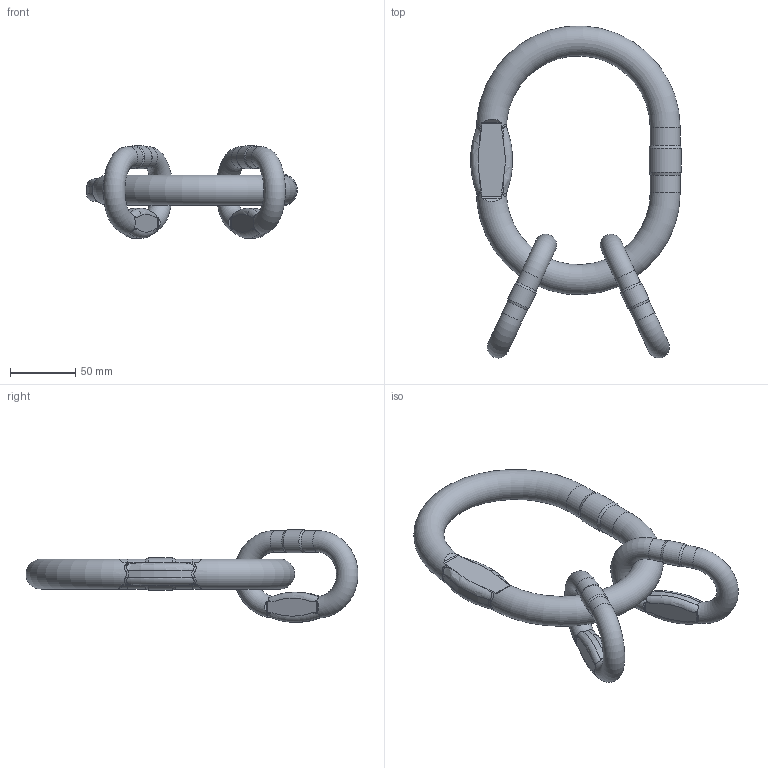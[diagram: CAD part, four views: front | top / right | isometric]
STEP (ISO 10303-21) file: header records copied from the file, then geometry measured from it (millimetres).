
FILE_DESCRIPTION(/* description */ (''),/* implementation_level */ '2;1');
FILE_NAME(/* name */ 'pewag_VMW_7-8',/* time_stamp */ '2010-02-23T13:35:37+01:00',/* author */ (''),/* organization */ (''),/* preprocessor_version */ 'ST-DEVELOPER v9',/* originating_system */ 'UGS - NX 4.0',/* authorisation */ '');
FILE_SCHEMA (('AUTOMOTIVE_DESIGN { 1 0 10303 214 1 1 1 1 }'));
Length unit declared in the file: millimetre
Products named in the file (1): ritEE04a5uc
Bounding box: 161.4 x 254.39 x 70.85 mm (x, y, z)
Volume: 322661.2 mm3; surface area: 63001.6 mm2
Topology: 3 solids, 3 shells, 127 faces, 351 edges, 220 vertices
Faces by surface type: cylinder 51, bspline 30, torus 22, plane 18, cone 6
Full cylindrical faces by diameter (mm): 16.5 x4, 17.738 x2, 23 x2, 24.725 x1
Entity records: 5139 total; most frequent: CARTESIAN_POINT 2353, ORIENTED_EDGE 628, DIRECTION 488, EDGE_CURVE 314, AXIS2_PLACEMENT_3D 220, VERTEX_POINT 208, EDGE_LOOP 148, B_SPLINE_CURVE_WITH_KNOTS 144
